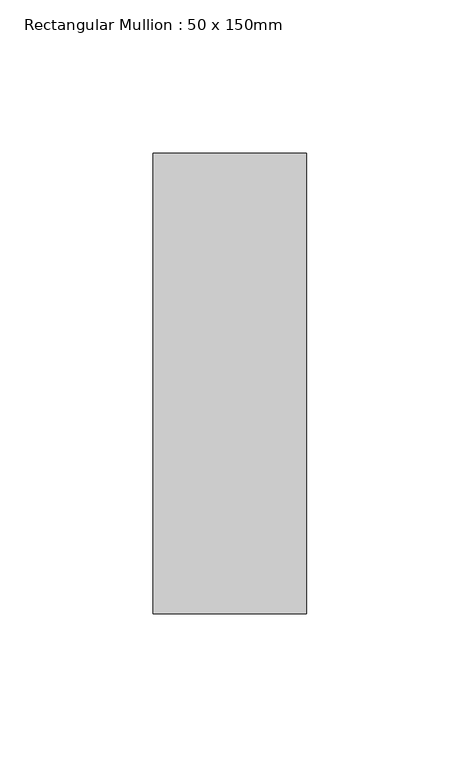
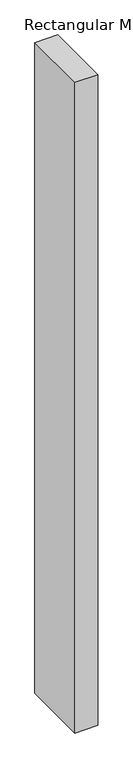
"""IFC4 building model written with IfcOpenShell, lengths in millimetres: member geometry, Rectangular Mullion : 50 x 150mm."""

from ifc_helpers import new_model, si_unit, frame, origin, place, context, project, spatial, polyline, outline, extrude, source, transform, mapped, element, save


def rectangular_mullion_50_x_150mm_3ed892e3(model_context):
    return source(origin(), model_context, "Body", "SweptSolid", [
        extrude(outline(polyline([(0.0, 75.0), (0.0, -75.0), (-50.0, -75.0), (-50.0, 75.0), (0.0, 75.0)])), frame((0.0, 0.0, -1490.1654613), z_axis=(0.0, 0.0, 1.0), x_axis=(1.0, 0.0, 0.0)), (0.0, 0.0, 1.0), 1490.1654613),
    ])


if __name__ == "__main__":
    model = new_model("IFC4")
    model_context = context("Model", 3, world=origin())
    ifc_project = project(units=[si_unit("LENGTHUNIT", "METRE", prefix="MILLI")], contexts=[model_context])
    site = spatial("IfcSite", under=ifc_project)
    building = spatial("IfcBuilding", under=site)
    placement = place(None, origin())
    rectangular_mullion_50_x_150mm_shape = rectangular_mullion_50_x_150mm_3ed892e3(model_context)
    element("IfcMember", 1, ObjectType="Rectangular Mullion : 50 x 150mm", at=placement, inside=building, context=model_context, shape_type="MappedRepresentation", body=[
        mapped(rectangular_mullion_50_x_150mm_shape, transform((0.0, 0.0, 0.0), x_axis=(1.0, 0.0, 0.0), y_axis=(0.0, 1.0, 0.0), z_axis=(0.0, 0.0, 1.0))),
    ])
    save(model, "model.ifc")
